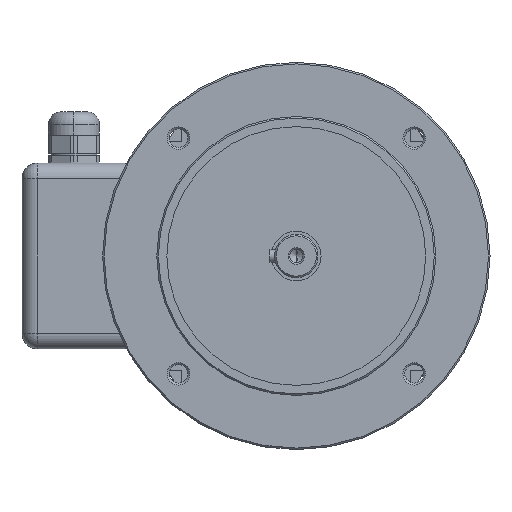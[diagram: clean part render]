
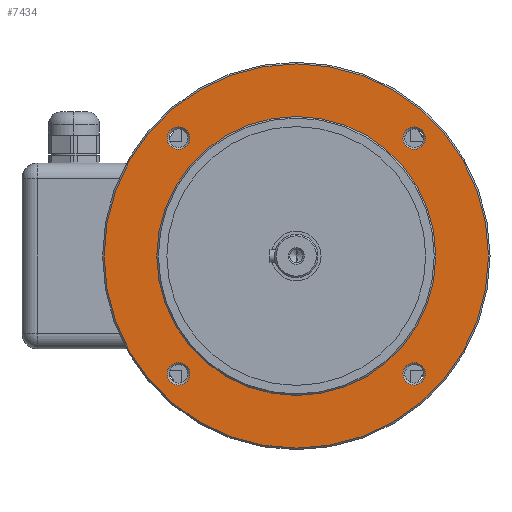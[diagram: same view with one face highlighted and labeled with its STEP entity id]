
A CAD part, left-side view. The second image highlights one B-rep face of the part: STEP entity #7434.
In plain terms, the highlighted planar face has unit normal (-1, 0, 0).
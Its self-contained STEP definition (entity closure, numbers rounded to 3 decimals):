
#67 = EDGE_CURVE ( 'NONE', #5781, #14897, #6553, .T. ) ;
#223 = CARTESIAN_POINT ( 'NONE',  ( 0., 76.014, 68.764 ) ) ;
#505 = DIRECTION ( 'NONE',  ( 1., 0., 0. ) ) ;
#563 = CIRCLE ( 'NONE', #2402, 7.25 ) ;
#757 = ORIENTED_EDGE ( 'NONE', *, *, #5743, .T. ) ;
#822 = CARTESIAN_POINT ( 'NONE',  ( 0., 90., 0. ) ) ;
#978 = EDGE_LOOP ( 'NONE', ( #1291, #5091 ) ) ;
#1285 = CARTESIAN_POINT ( 'NONE',  ( 0., 0., 124. ) ) ;
#1291 = ORIENTED_EDGE ( 'NONE', *, *, #67, .F. ) ;
#1795 = VERTEX_POINT ( 'NONE', #8735 ) ;
#1818 = DIRECTION ( 'NONE',  ( 0., 0., -1. ) ) ;
#1945 = VERTEX_POINT ( 'NONE', #15476 ) ;
#1966 = DIRECTION ( 'NONE',  ( 0., 0., 1. ) ) ;
#2033 = CARTESIAN_POINT ( 'NONE',  ( 0., 0., -90. ) ) ;
#2154 = CIRCLE ( 'NONE', #2680, 7.25 ) ;
#2166 = CARTESIAN_POINT ( 'NONE',  ( 0., -76.014, 68.764 ) ) ;
#2251 = ORIENTED_EDGE ( 'NONE', *, *, #4696, .F. ) ;
#2399 = VERTEX_POINT ( 'NONE', #14554 ) ;
#2402 = AXIS2_PLACEMENT_3D ( 'NONE', #10757, #10832, #8518 ) ;
#2516 = ORIENTED_EDGE ( 'NONE', *, *, #14840, .F. ) ;
#2680 = AXIS2_PLACEMENT_3D ( 'NONE', #4827, #6138, #15035 ) ;
#2777 = CIRCLE ( 'NONE', #11175, 7.25 ) ;
#2858 = EDGE_CURVE ( 'NONE', #4753, #2399, #4771, .T. ) ;
#2895 = FACE_OUTER_BOUND ( 'NONE', #13667, .T. ) ;
#3065 = CIRCLE ( 'NONE', #6742, 7.25 ) ;
#3083 = CARTESIAN_POINT ( 'NONE',  ( 0., 76.014, 83.264 ) ) ;
#3096 = DIRECTION ( 'NONE',  ( -1., 0., 0. ) ) ;
#3188 = CARTESIAN_POINT ( 'NONE',  ( 0., 76.014, -83.264 ) ) ;
#3221 = FACE_BOUND ( 'NONE', #8734, .T. ) ;
#3272 = AXIS2_PLACEMENT_3D ( 'NONE', #822, #505, #1818 ) ;
#3275 = EDGE_LOOP ( 'NONE', ( #4498, #11000 ) ) ;
#3556 = EDGE_LOOP ( 'NONE', ( #7133, #9787 ) ) ;
#3559 = ORIENTED_EDGE ( 'NONE', *, *, #14666, .T. ) ;
#3686 = DIRECTION ( 'NONE',  ( -1., 0., 0. ) ) ;
#3764 = CIRCLE ( 'NONE', #14546, 124. ) ;
#3815 = EDGE_CURVE ( 'NONE', #13327, #13317, #563, .T. ) ;
#4234 = CARTESIAN_POINT ( 'NONE',  ( 0., 76.014, -76.014 ) ) ;
#4302 = AXIS2_PLACEMENT_3D ( 'NONE', #7964, #7884, #13080 ) ;
#4370 = FACE_BOUND ( 'NONE', #978, .T. ) ;
#4498 = ORIENTED_EDGE ( 'NONE', *, *, #13168, .F. ) ;
#4528 = DIRECTION ( 'NONE',  ( -1., 0., 0. ) ) ;
#4616 = CARTESIAN_POINT ( 'NONE',  ( 0., 76.014, 76.014 ) ) ;
#4696 = EDGE_CURVE ( 'NONE', #13317, #13327, #5263, .T. ) ;
#4753 = VERTEX_POINT ( 'NONE', #8891 ) ;
#4771 = CIRCLE ( 'NONE', #7932, 7.25 ) ;
#4827 = CARTESIAN_POINT ( 'NONE',  ( 0., -76.014, -76.014 ) ) ;
#4895 = VERTEX_POINT ( 'NONE', #2033 ) ;
#5052 = ORIENTED_EDGE ( 'NONE', *, *, #6181, .F. ) ;
#5091 = ORIENTED_EDGE ( 'NONE', *, *, #6049, .F. ) ;
#5263 = CIRCLE ( 'NONE', #7110, 7.25 ) ;
#5397 = VERTEX_POINT ( 'NONE', #2166 ) ;
#5743 = EDGE_CURVE ( 'NONE', #1795, #9742, #14090, .T. ) ;
#5781 = VERTEX_POINT ( 'NONE', #8645 ) ;
#5792 = CARTESIAN_POINT ( 'NONE',  ( 0., -76.014, -76.014 ) ) ;
#5992 = CARTESIAN_POINT ( 'NONE',  ( 0., 76.014, -76.014 ) ) ;
#6049 = EDGE_CURVE ( 'NONE', #14897, #5781, #11454, .T. ) ;
#6138 = DIRECTION ( 'NONE',  ( -1., 0., 0. ) ) ;
#6154 = DIRECTION ( 'NONE',  ( -1., 0., 0. ) ) ;
#6181 = EDGE_CURVE ( 'NONE', #4895, #1945, #6199, .T. ) ;
#6199 = CIRCLE ( 'NONE', #11987, 90. ) ;
#6456 = CARTESIAN_POINT ( 'NONE',  ( 0., -76.014, 83.264 ) ) ;
#6553 = CIRCLE ( 'NONE', #7882, 7.25 ) ;
#6742 = AXIS2_PLACEMENT_3D ( 'NONE', #10137, #7419, #11294 ) ;
#6906 = EDGE_CURVE ( 'NONE', #9748, #5397, #3065, .T. ) ;
#7110 = AXIS2_PLACEMENT_3D ( 'NONE', #4616, #4528, #14583 ) ;
#7133 = ORIENTED_EDGE ( 'NONE', *, *, #6906, .F. ) ;
#7419 = DIRECTION ( 'NONE',  ( -1., 0., 0. ) ) ;
#7434 = ADVANCED_FACE ( 'NONE', ( #2895, #7915, #10865, #3221, #4370, #8318 ), #14419, .F. ) ;
#7515 = AXIS2_PLACEMENT_3D ( 'NONE', #15886, #9468, #12104 ) ;
#7882 = AXIS2_PLACEMENT_3D ( 'NONE', #4234, #3096, #15348 ) ;
#7884 = DIRECTION ( 'NONE',  ( -1., 0., 0. ) ) ;
#7915 = FACE_BOUND ( 'NONE', #3275, .T. ) ;
#7932 = AXIS2_PLACEMENT_3D ( 'NONE', #5792, #10586, #10824 ) ;
#7964 = CARTESIAN_POINT ( 'NONE',  ( 0., 0., 0. ) ) ;
#8109 = ORIENTED_EDGE ( 'NONE', *, *, #3815, .F. ) ;
#8209 = DIRECTION ( 'NONE',  ( 0., 0., 1. ) ) ;
#8318 = FACE_BOUND ( 'NONE', #8737, .T. ) ;
#8518 = DIRECTION ( 'NONE',  ( 0., 0., 1. ) ) ;
#8645 = CARTESIAN_POINT ( 'NONE',  ( 0., 76.014, -68.764 ) ) ;
#8734 = EDGE_LOOP ( 'NONE', ( #8109, #2251 ) ) ;
#8735 = CARTESIAN_POINT ( 'NONE',  ( 0., 0., -124. ) ) ;
#8737 = EDGE_LOOP ( 'NONE', ( #2516, #5052 ) ) ;
#8891 = CARTESIAN_POINT ( 'NONE',  ( 0., -76.014, -83.264 ) ) ;
#8950 = DIRECTION ( 'NONE',  ( 0., 0., -1. ) ) ;
#9468 = DIRECTION ( 'NONE',  ( -1., 0., 0. ) ) ;
#9605 = DIRECTION ( 'NONE',  ( -1., 0., 0. ) ) ;
#9742 = VERTEX_POINT ( 'NONE', #1285 ) ;
#9748 = VERTEX_POINT ( 'NONE', #6456 ) ;
#9787 = ORIENTED_EDGE ( 'NONE', *, *, #16066, .F. ) ;
#10137 = CARTESIAN_POINT ( 'NONE',  ( 0., -76.014, 76.014 ) ) ;
#10348 = CIRCLE ( 'NONE', #4302, 90. ) ;
#10586 = DIRECTION ( 'NONE',  ( -1., 0., 0. ) ) ;
#10757 = CARTESIAN_POINT ( 'NONE',  ( 0., 76.014, 76.014 ) ) ;
#10824 = DIRECTION ( 'NONE',  ( 0., 0., 1. ) ) ;
#10832 = DIRECTION ( 'NONE',  ( -1., 0., 0. ) ) ;
#10865 = FACE_BOUND ( 'NONE', #3556, .T. ) ;
#10945 = DIRECTION ( 'NONE',  ( -1., 0., 0. ) ) ;
#11000 = ORIENTED_EDGE ( 'NONE', *, *, #2858, .F. ) ;
#11025 = CARTESIAN_POINT ( 'NONE',  ( 0., 0., 0. ) ) ;
#11175 = AXIS2_PLACEMENT_3D ( 'NONE', #13488, #9605, #8209 ) ;
#11294 = DIRECTION ( 'NONE',  ( 0., 0., 1. ) ) ;
#11454 = CIRCLE ( 'NONE', #15128, 7.25 ) ;
#11987 = AXIS2_PLACEMENT_3D ( 'NONE', #11025, #6154, #16275 ) ;
#12104 = DIRECTION ( 'NONE',  ( 0., 0., -1. ) ) ;
#13080 = DIRECTION ( 'NONE',  ( 0., 0., 1. ) ) ;
#13168 = EDGE_CURVE ( 'NONE', #2399, #4753, #2154, .T. ) ;
#13317 = VERTEX_POINT ( 'NONE', #223 ) ;
#13327 = VERTEX_POINT ( 'NONE', #3083 ) ;
#13488 = CARTESIAN_POINT ( 'NONE',  ( 0., -76.014, 76.014 ) ) ;
#13667 = EDGE_LOOP ( 'NONE', ( #757, #3559 ) ) ;
#14090 = CIRCLE ( 'NONE', #7515, 124. ) ;
#14419 = PLANE ( 'NONE',  #3272 ) ;
#14546 = AXIS2_PLACEMENT_3D ( 'NONE', #14972, #3686, #8950 ) ;
#14554 = CARTESIAN_POINT ( 'NONE',  ( 0., -76.014, -68.764 ) ) ;
#14583 = DIRECTION ( 'NONE',  ( 0., 0., 1. ) ) ;
#14666 = EDGE_CURVE ( 'NONE', #9742, #1795, #3764, .T. ) ;
#14840 = EDGE_CURVE ( 'NONE', #1945, #4895, #10348, .T. ) ;
#14897 = VERTEX_POINT ( 'NONE', #3188 ) ;
#14972 = CARTESIAN_POINT ( 'NONE',  ( 0., 0., 0. ) ) ;
#15035 = DIRECTION ( 'NONE',  ( 0., 0., 1. ) ) ;
#15128 = AXIS2_PLACEMENT_3D ( 'NONE', #5992, #10945, #1966 ) ;
#15348 = DIRECTION ( 'NONE',  ( 0., 0., 1. ) ) ;
#15476 = CARTESIAN_POINT ( 'NONE',  ( 0., 0., 90. ) ) ;
#15886 = CARTESIAN_POINT ( 'NONE',  ( 0., 0., 0. ) ) ;
#16066 = EDGE_CURVE ( 'NONE', #5397, #9748, #2777, .T. ) ;
#16275 = DIRECTION ( 'NONE',  ( 0., 0., 1. ) ) ;
